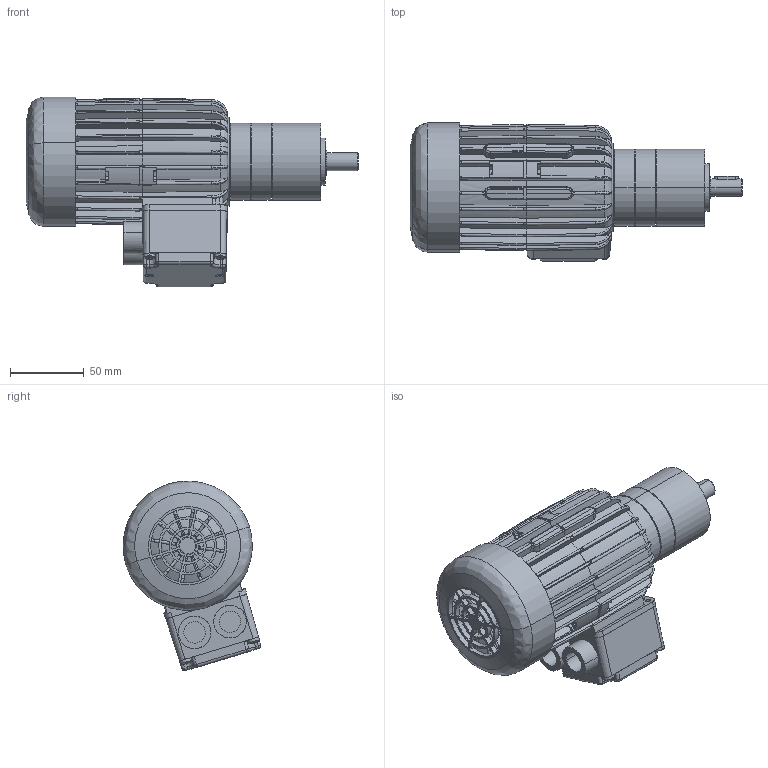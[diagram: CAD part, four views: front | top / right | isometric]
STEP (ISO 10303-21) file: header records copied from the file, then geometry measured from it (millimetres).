
FILE_DESCRIPTION (( 'STEP AP214' ), '1' );
FILE_NAME ('DG7150_+_PM52 2etages.STEP', '2014-12-08T15:09:06', ( '' ), ( '' ), 'SwSTEP 2.0', 'SolidWorks 2013', '' );
FILE_SCHEMA (( 'AUTOMOTIVE_DESIGN' ));
Length unit declared in the file: millimetre
Products named in the file (17): GK2152_POS3_6_ANLAUFSCHEIBE_1ST; SCHRAUBE_1241978_1; 8006230_ZAHNKRANZ_Z46; 8006405_DICHTRING; 4X4X16_D6885A; D471_12X1_5; 8102168_ABTRIEB_LK1_KPL; GK2152_POS31_2_LAGERBOLZEN; 8101171_ABTRIEB_ROHTEIL_AF0; DIN998_PS_12X18X1; D625-6001-2RS; 8006231_LAGERFLANSCH; DG7150_+_PM52 2etages; Dg7150-2; adapt d662 dg7150_Part; PM52 pour 1.13.063 - 1227633; 8014926_MOTORRITZEL_Z17
Assembly tree (26 placements, depth 4):
  DG7150_+_PM52 2etages
    PM52 pour 1.13.063 - 1227633
      8006231_LAGERFLANSCH
      D625-6001-2RS  x2
      DIN998_PS_12X18X1  x2
      8102168_ABTRIEB_LK1_KPL
        8101171_ABTRIEB_ROHTEIL_AF0
        GK2152_POS31_2_LAGERBOLZEN  x3
      D471_12X1_5
      4X4X16_D6885A
      8006405_DICHTRING  x2
      8006230_ZAHNKRANZ_Z46
      SCHRAUBE_1241978_1  x4
      GK2152_POS3_6_ANLAUFSCHEIBE_1ST
      8014926_MOTORRITZEL_Z17
    adapt d662 dg7150_Part
    Dg7150-2
    8006405_DICHTRING
    8006230_ZAHNKRANZ_Z46
Bounding box: 224.55 x 93.25 x 128.34 mm (x, y, z)
Volume: 42044.5 mm3; surface area: 167027.3 mm2
Topology: 21 solids, 53 shells, 2120 faces, 6263 edges, 4215 vertices
Faces by surface type: cylinder 828, plane 679, cone 346, bspline 267
Entity records: 81679 total; most frequent: CARTESIAN_POINT 27360, ORIENTED_EDGE 8895, DIRECTION 8356, EDGE_CURVE 5013, VERTEX_POINT 3394, AXIS2_PLACEMENT_3D 3163, LINE 2030, VECTOR 2030
